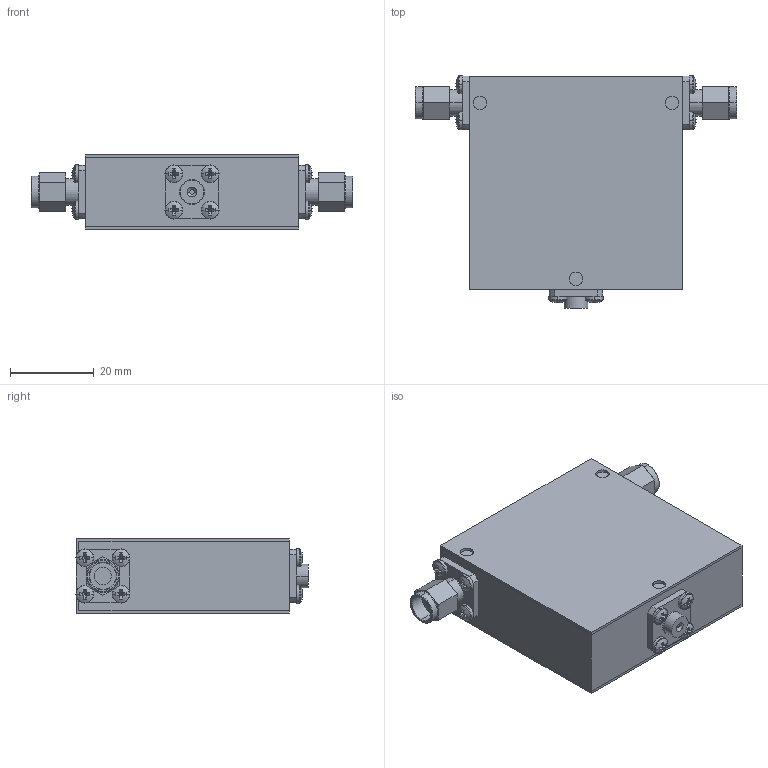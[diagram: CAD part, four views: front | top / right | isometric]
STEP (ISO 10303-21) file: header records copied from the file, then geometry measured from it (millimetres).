
FILE_DESCRIPTION (( 'STEP AP214' ), '1' );
FILE_NAME ('D3I1727-3 2.0x2.0x0.7 MM.step', '2021-12-01T20:56:09', ( '' ), ( '' ), 'SwSTEP 2.0', 'SolidWorks 2016', '' );
FILE_SCHEMA (( 'AUTOMOTIVE_DESIGN' ));
Length unit declared in the file: inch
Products named in the file (6): D3I1727-3 2.0x2.0x0.7 MM; Delta SMA-Male; pan cross head_ai_CR-PHMS 0.086-56x0.125x0.125-N; 030013-1A Same Base thickness as connectors; D3I1727 2.0x2.0x0.7; D3I1727 2.0x1.975x0.65
Assembly tree (17 placements, depth 2):
  D3I1727-3 2.0x2.0x0.7 MM
    D3I1727 2.0x1.975x0.65
    D3I1727 2.0x2.0x0.7
    030013-1A Same Base thickness as connectors
    pan cross head_ai_CR-PHMS 0.086-56x0.125x0.125-N  x12
    Delta SMA-Male  x2
Bounding box: 76.56 x 55.33 x 17.78 mm (x, y, z)
Volume: 47498.4 mm3; surface area: 23673.1 mm2
Topology: 17 solids, 17 shells, 430 faces, 980 edges, 604 vertices
Faces by surface type: plane 246, cylinder 118, torus 38, sphere 24, cone 4
Entity records: 4284 total; most frequent: DIRECTION 774, CARTESIAN_POINT 668, ORIENTED_EDGE 632, EDGE_CURVE 316, AXIS2_PLACEMENT_3D 308, VERTEX_POINT 202, EDGE_LOOP 168, LINE 158
